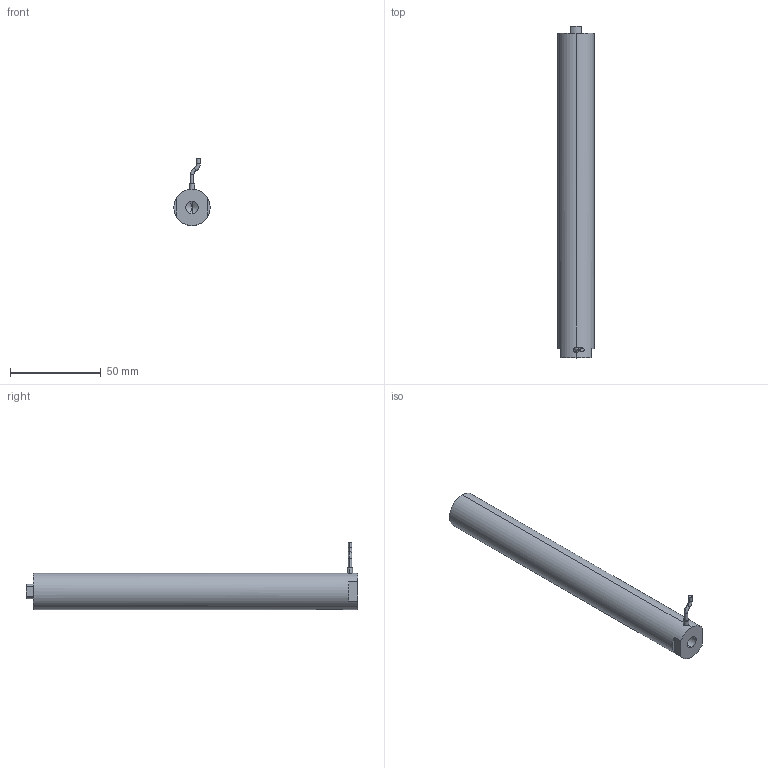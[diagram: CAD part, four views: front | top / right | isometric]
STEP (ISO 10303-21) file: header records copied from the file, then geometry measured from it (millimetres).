
FILE_DESCRIPTION (( 'STEP AP203' ), '1' );
FILE_NAME ('ﾄﾚﾂﾝﾎﾆﾊｽ180VS20.STEP', '2021-07-08T05:27:57', ( 'ﾎ｢ﾈ橆ﾃｻｧ' ), ( 'ﾎ｢ﾈ晥ｫﾋｾ' ), 'SwSTEP 2.0', 'SolidWorks 2016', '' );
FILE_SCHEMA (( 'CONFIG_CONTROL_DESIGN' ));
Length unit declared in the file: millimetre
Products named in the file (1): 囀蹟恇宒180VS20
Bounding box: 20 x 183 x 37.06 mm (x, y, z)
Volume: 55845.4 mm3; surface area: 12431.1 mm2
Topology: 1 solids, 1 shells, 949 faces, 2567 edges, 1704 vertices
Faces by surface type: bspline 525, plane 307, cylinder 109, torus 4, cone 4
Entity records: 45789 total; most frequent: CARTESIAN_POINT 26597, ORIENTED_EDGE 5118, EDGE_CURVE 2559, DIRECTION 1947, B_SPLINE_CURVE_WITH_KNOTS 1734, VERTEX_POINT 1702, EDGE_LOOP 1039, FACE_OUTER_BOUND 949
